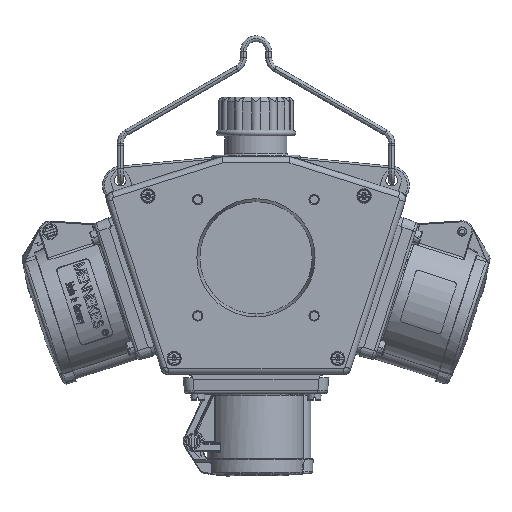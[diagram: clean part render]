
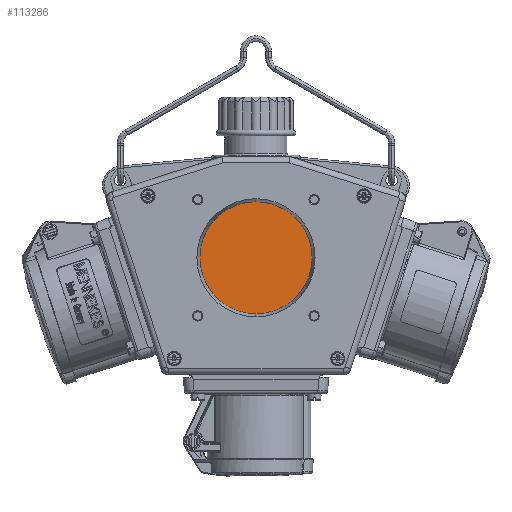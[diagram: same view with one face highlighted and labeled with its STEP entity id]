
A CAD part, top view. The second image highlights one B-rep face of the part: STEP entity #113286.
In plain terms, the highlighted planar face has unit normal (0, 0, 1).
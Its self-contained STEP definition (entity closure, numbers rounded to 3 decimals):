
#33697=CARTESIAN_POINT('',(0.,-6.06,41.8));
#33698=DIRECTION('',(0.,0.,-1.));
#33699=DIRECTION('',(0.,1.,0.));
#33700=AXIS2_PLACEMENT_3D('',#33697,#33698,#33699);
#33705=CARTESIAN_POINT('',(0.,-6.06,41.8));
#33706=DIRECTION('',(0.,0.,-1.));
#33707=DIRECTION('',(0.,-1.,0.));
#33708=AXIS2_PLACEMENT_3D('',#33705,#33706,#33707);
#65531=CARTESIAN_POINT('',(0.,22.904,41.8));
#65532=CARTESIAN_POINT('',(0.,-35.024,41.8));
#65533=VERTEX_POINT('',#65531);
#65534=VERTEX_POINT('',#65532);
#113276=CARTESIAN_POINT('',(-70.78,12.127,41.8));
#113277=DIRECTION('',(0.,0.,1.));
#113278=DIRECTION('',(-0.951,-0.309,0.));
#113279=AXIS2_PLACEMENT_3D('',#113276,#113277,#113278);
#113280=PLANE('2801',#113279);
#113281=ORIENTED_EDGE('3535',*,*,#113254,.T.);
#113283=ORIENTED_EDGE('3536',*,*,#113282,.T.);
#113284=EDGE_LOOP('2801',(#113281,#113283));
#113285=FACE_OUTER_BOUND('2801',#113284,.F.);
#33701=CIRCLE('3535',#33700,28.964);
#33709=CIRCLE('3536',#33708,28.964);
#113254=EDGE_CURVE('3535',#65533,#65534,#33701,.T.);
#113282=EDGE_CURVE('3536',#65534,#65533,#33709,.T.);
#113286=ADVANCED_FACE('2801',(#113285),#113280,.T.);
